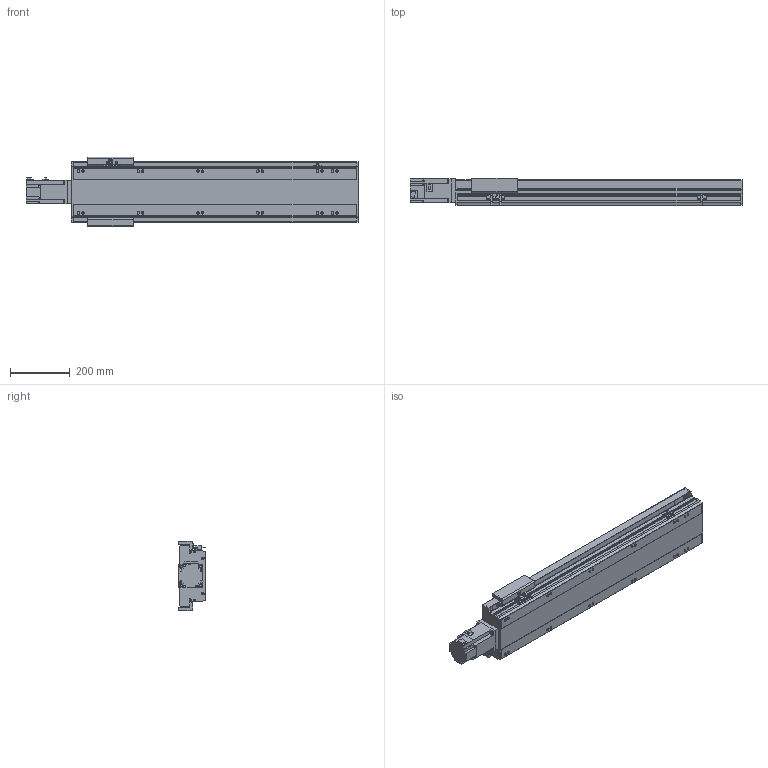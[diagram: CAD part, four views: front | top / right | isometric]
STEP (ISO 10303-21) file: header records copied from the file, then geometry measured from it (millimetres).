
FILE_DESCRIPTION(/* description */ ('STEP AP214'),/* implementation_level */ '2;1');
FILE_NAME(/* name */ 'PSM170-L10-S700-BC-T75-C1-N(0)',/* time_stamp */ '2022-06-13T03:24:29+02:00',/* author */ ('License CC BY-ND 4.0'),/* organization */ ('CADENAS'),/* preprocessor_version */ 'ST-DEVELOPER v18.102',/* originating_system */ 'PARTsolutions',/* authorisation */ ' ');
FILE_SCHEMA (('AUTOMOTIVE_DESIGN {1 0 10303 214 3 1 1}'));
Length unit declared in the file: millimetre
Products named in the file (8): PSM170-L10-S700-BC-T75-C1-N(0); PSM-Sensor; PSM140-S700-942.5; T75-p1; PSM170_body2; PSM170_body3; PSM170-S700_body1; PSM170-L10-S700-BC-T75-C1-N(0)_dummy
Assembly tree (11 placements, depth 2):
  PSM170-L10-S700-BC-T75-C1-N(0)
    PSM-Sensor  x3
    PSM140-S700-942.5  x3
    T75-p1
    PSM170_body2
    PSM170_body3
    PSM170-S700_body1
    PSM170-L10-S700-BC-T75-C1-N(0)_dummy
Bounding box: 1111.3 x 92 x 233 mm (x, y, z)
Volume: 6744412.2 mm3; surface area: 1292393.9 mm2
Topology: 10 solids, 10 shells, 1059 faces, 2828 edges, 1841 vertices
Faces by surface type: plane 660, cylinder 321, cone 64, torus 14
Full cylindrical faces by diameter (mm): 2.8 x3, 3.08 x1, 4.134 x4, 4.5 x12, 4.6 x3, 5.7 x2, 6 x9, 6.647 x20, 7 x8, 7.6 x4, 8 x8, 8.5 x12, 10 x4, 14 x12, 45 x1, 70 x1
Entity records: 27883 total; most frequent: CARTESIAN_POINT 5142, DIRECTION 4648, ORIENTED_EDGE 4460, EDGE_CURVE 2230, AXIS2_PLACEMENT_3D 1573, VERTEX_POINT 1562, LINE 1502, VECTOR 1502
